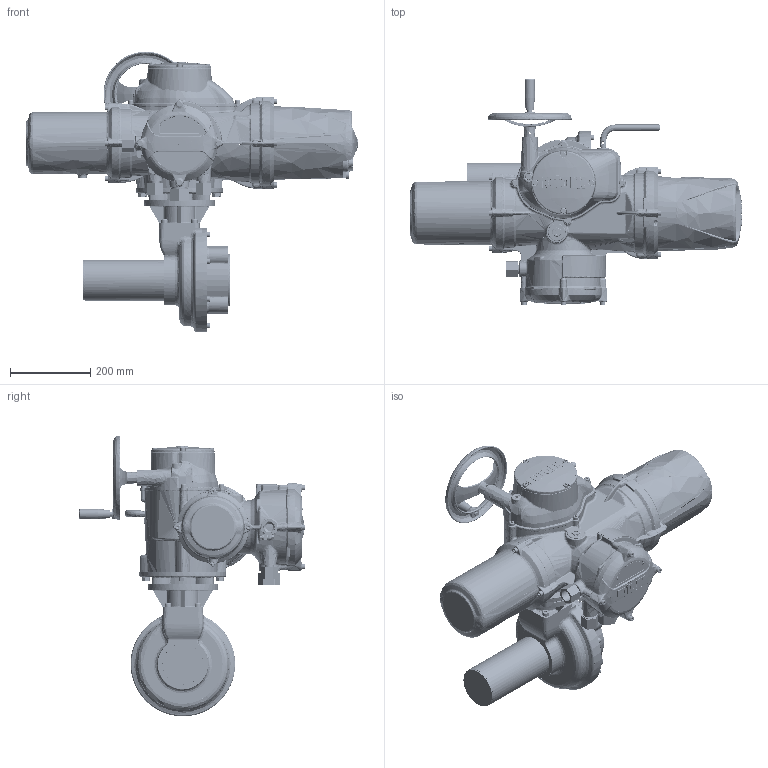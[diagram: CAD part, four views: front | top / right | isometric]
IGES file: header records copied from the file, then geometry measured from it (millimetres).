
Start section: C
Global section: file name: II3SHWIB8STD-1.igs; native system: By Siemens PLM Incorporated; preprocessor: XPlus GENERIC/IGES 18.0.17; author: Author; organization: Title; date: 20160624.095553; units: millimetre
Bounding box: 825.55 x 563.65 x 697.92 mm (x, y, z)
Surface area: 1575709.3 mm2 (no closed solid volume)
Topology: 0 solids, 0 shells, 7921 faces, 43404 edges, 42958 vertices
Faces by surface type: bspline 7921
